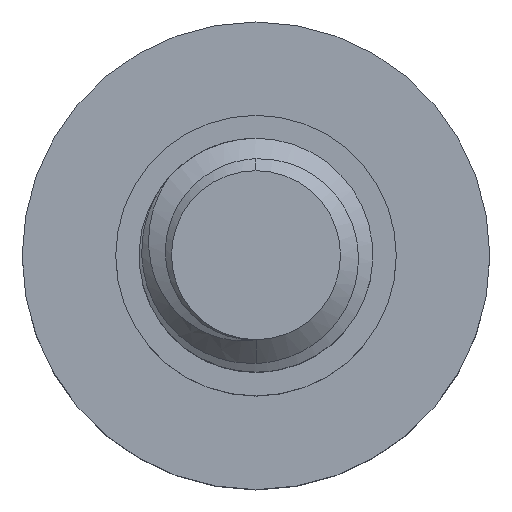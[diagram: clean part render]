
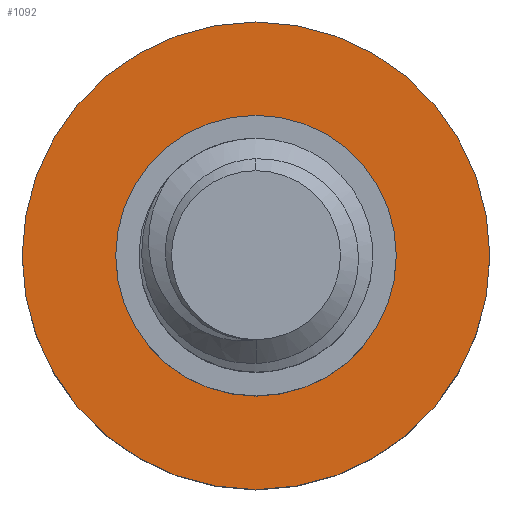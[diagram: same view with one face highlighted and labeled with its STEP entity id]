
A CAD part, top view. The second image highlights one B-rep face of the part: STEP entity #1092.
In plain terms, the highlighted planar face has unit normal (0, 0, 1).
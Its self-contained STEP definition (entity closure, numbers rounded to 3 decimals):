
#23 = CIRCLE ( 'NONE', #1622, 5. ) ;
#55 = DIRECTION ( 'NONE',  ( -1., 0., 0. ) ) ;
#231 = CARTESIAN_POINT ( 'NONE',  ( 3., 0., -2. ) ) ;
#296 = VERTEX_POINT ( 'NONE', #1653 ) ;
#325 = FACE_BOUND ( 'NONE', #1861, .T. ) ;
#394 = ORIENTED_EDGE ( 'NONE', *, *, #595, .F. ) ;
#463 = DIRECTION ( 'NONE',  ( 0., 0., -1. ) ) ;
#595 = EDGE_CURVE ( 'NONE', #1978, #1075, #23, .T. ) ;
#655 = DIRECTION ( 'NONE',  ( -1., 0., 0. ) ) ;
#675 = DIRECTION ( 'NONE',  ( -1., 0., 0. ) ) ;
#696 = EDGE_LOOP ( 'NONE', ( #394, #1160 ) ) ;
#774 = DIRECTION ( 'NONE',  ( 0., 0., -1. ) ) ;
#802 = DIRECTION ( 'NONE',  ( 0., 0., -1. ) ) ;
#825 = FACE_OUTER_BOUND ( 'NONE', #696, .T. ) ;
#853 = CARTESIAN_POINT ( 'NONE',  ( 0., 0., -2. ) ) ;
#1012 = EDGE_CURVE ( 'NONE', #1247, #296, #1309, .T. ) ;
#1047 = ORIENTED_EDGE ( 'NONE', *, *, #1515, .T. ) ;
#1075 = VERTEX_POINT ( 'NONE', #2334 ) ;
#1092 = ADVANCED_FACE ( 'NONE', ( #325, #825 ), #1556, .F. ) ;
#1160 = ORIENTED_EDGE ( 'NONE', *, *, #2379, .F. ) ;
#1187 = AXIS2_PLACEMENT_3D ( 'NONE', #1392, #463, #675 ) ;
#1189 = CIRCLE ( 'NONE', #1502, 3. ) ;
#1232 = CIRCLE ( 'NONE', #1919, 5. ) ;
#1247 = VERTEX_POINT ( 'NONE', #231 ) ;
#1304 = DIRECTION ( 'NONE',  ( -1., 0., 0. ) ) ;
#1309 = CIRCLE ( 'NONE', #1187, 3. ) ;
#1392 = CARTESIAN_POINT ( 'NONE',  ( 0., 0., -2. ) ) ;
#1502 = AXIS2_PLACEMENT_3D ( 'NONE', #2104, #802, #655 ) ;
#1515 = EDGE_CURVE ( 'NONE', #296, #1247, #1189, .T. ) ;
#1555 = CARTESIAN_POINT ( 'NONE',  ( 5., 0., -2. ) ) ;
#1556 = PLANE ( 'NONE',  #1695 ) ;
#1622 = AXIS2_PLACEMENT_3D ( 'NONE', #853, #1739, #55 ) ;
#1653 = CARTESIAN_POINT ( 'NONE',  ( -3., 0., -2. ) ) ;
#1655 = DIRECTION ( 'NONE',  ( -1., 0., 0. ) ) ;
#1689 = CARTESIAN_POINT ( 'NONE',  ( 0., 0., -2. ) ) ;
#1695 = AXIS2_PLACEMENT_3D ( 'NONE', #1689, #774, #1304 ) ;
#1739 = DIRECTION ( 'NONE',  ( 0., 0., -1. ) ) ;
#1790 = ORIENTED_EDGE ( 'NONE', *, *, #1012, .T. ) ;
#1861 = EDGE_LOOP ( 'NONE', ( #1047, #1790 ) ) ;
#1919 = AXIS2_PLACEMENT_3D ( 'NONE', #2393, #2378, #1655 ) ;
#1978 = VERTEX_POINT ( 'NONE', #1555 ) ;
#2104 = CARTESIAN_POINT ( 'NONE',  ( 0., 0., -2. ) ) ;
#2334 = CARTESIAN_POINT ( 'NONE',  ( -5., 0., -2. ) ) ;
#2378 = DIRECTION ( 'NONE',  ( 0., 0., -1. ) ) ;
#2379 = EDGE_CURVE ( 'NONE', #1075, #1978, #1232, .T. ) ;
#2393 = CARTESIAN_POINT ( 'NONE',  ( 0., 0., -2. ) ) ;
